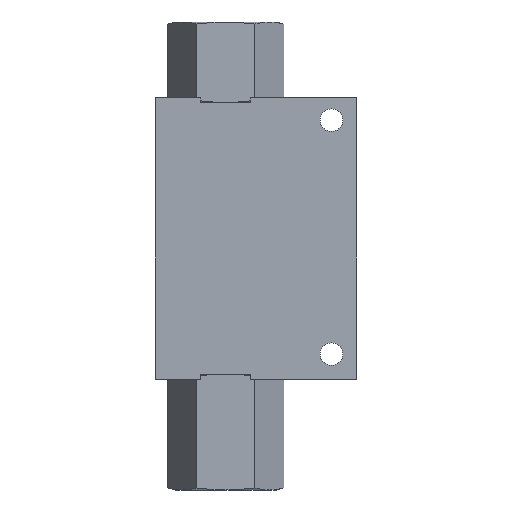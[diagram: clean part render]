
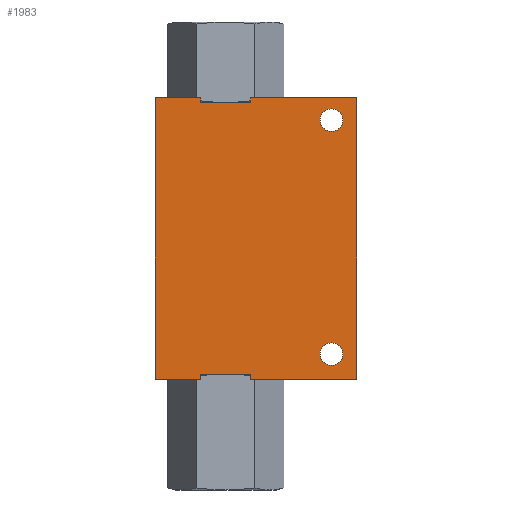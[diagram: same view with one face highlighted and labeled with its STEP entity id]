
A CAD part, left-side view. The second image highlights one B-rep face of the part: STEP entity #1983.
In plain terms, the highlighted planar face has unit normal (-1, 0, 0).
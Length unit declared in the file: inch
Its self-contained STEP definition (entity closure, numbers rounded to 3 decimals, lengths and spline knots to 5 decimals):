
#1584=CARTESIAN_POINT('',(-0.75,-0.3125,-3.435));
#1585=VERTEX_POINT('',#1584);
#1593=CARTESIAN_POINT('',(-0.75,0.3125,-3.435));
#1594=VERTEX_POINT('',#1593);
#1595=CARTESIAN_POINT('',(-0.75,0.3125,-3.435));
#1596=DIRECTION('',(0.0,-1.0,0.0));
#1597=VECTOR('',#1596,0.625);
#1598=LINE('',#1595,#1597);
#1599=EDGE_CURVE('',#1594,#1585,#1598,.T.);
#1626=CARTESIAN_POINT('',(-0.75,0.875,-3.5));
#1627=VERTEX_POINT('',#1626);
#1634=CARTESIAN_POINT('',(-0.75,0.875,0.0));
#1635=VERTEX_POINT('',#1634);
#1636=CARTESIAN_POINT('',(-0.75,0.875,0.0));
#1637=DIRECTION('',(0.0,0.0,-1.0));
#1638=VECTOR('',#1637,3.5);
#1639=LINE('',#1636,#1638);
#1640=EDGE_CURVE('',#1635,#1627,#1639,.T.);
#1664=CARTESIAN_POINT('',(-0.75,-1.625,-3.5));
#1665=VERTEX_POINT('',#1664);
#1682=CARTESIAN_POINT('',(-0.75,-1.625,0.0));
#1683=VERTEX_POINT('',#1682);
#1690=CARTESIAN_POINT('',(-0.75,-1.625,0.0));
#1691=DIRECTION('',(0.0,0.0,-1.0));
#1692=VECTOR('',#1691,3.5);
#1693=LINE('',#1690,#1692);
#1694=EDGE_CURVE('',#1683,#1665,#1693,.T.);
#1765=CARTESIAN_POINT('',(-0.75,0.3125,0.0));
#1766=VERTEX_POINT('',#1765);
#1783=CARTESIAN_POINT('',(-0.75,0.3125,0.0));
#1784=DIRECTION('',(0.0,1.0,0.0));
#1785=VECTOR('',#1784,0.5625);
#1786=LINE('',#1783,#1785);
#1787=EDGE_CURVE('',#1766,#1635,#1786,.T.);
#1799=CARTESIAN_POINT('',(-0.75,-0.3125,0.0));
#1800=VERTEX_POINT('',#1799);
#1808=CARTESIAN_POINT('',(-0.75,-1.625,0.0));
#1809=DIRECTION('',(0.0,1.0,0.0));
#1810=VECTOR('',#1809,1.3125);
#1811=LINE('',#1808,#1810);
#1812=EDGE_CURVE('',#1683,#1800,#1811,.T.);
#1829=CARTESIAN_POINT('',(-0.75,-0.3125,-0.06));
#1830=VERTEX_POINT('',#1829);
#1831=CARTESIAN_POINT('',(-0.75,0.3125,-0.06));
#1832=VERTEX_POINT('',#1831);
#1833=CARTESIAN_POINT('',(-0.75,-0.3125,-0.06));
#1834=DIRECTION('',(0.0,1.0,0.0));
#1835=VECTOR('',#1834,0.625);
#1836=LINE('',#1833,#1835);
#1837=EDGE_CURVE('',#1830,#1832,#1836,.T.);
#1879=CARTESIAN_POINT('',(-0.75,0.3125,-0.06));
#1880=DIRECTION('',(0.0,0.0,1.0));
#1881=VECTOR('',#1880,0.06);
#1882=LINE('',#1879,#1881);
#1883=EDGE_CURVE('',#1832,#1766,#1882,.T.);
#1901=CARTESIAN_POINT('',(-0.75,-0.3125,0.0));
#1902=DIRECTION('',(0.0,0.0,-1.0));
#1903=VECTOR('',#1902,0.06);
#1904=LINE('',#1901,#1903);
#1905=EDGE_CURVE('',#1800,#1830,#1904,.T.);
#1918=CARTESIAN_POINT('',(-0.75,0.875,0.0));
#1919=DIRECTION('',(-1.0,0.0,0.0));
#1920=DIRECTION('',(0.0,0.0,1.0));
#1921=AXIS2_PLACEMENT_3D('',#1918,#1919,#1920);
#1922=PLANE('',#1921);
#1923=CARTESIAN_POINT('',(-0.75,0.3125,-3.5));
#1924=VERTEX_POINT('',#1923);
#1925=CARTESIAN_POINT('',(-0.75,0.3125,-3.5));
#1926=DIRECTION('',(0.0,0.0,1.0));
#1927=VECTOR('',#1926,0.065);
#1928=LINE('',#1925,#1927);
#1929=EDGE_CURVE('',#1924,#1594,#1928,.T.);
#1930=ORIENTED_EDGE('',*,*,#1929,.T.);
#1931=ORIENTED_EDGE('',*,*,#1599,.T.);
#1932=CARTESIAN_POINT('',(-0.75,-0.3125,-3.5));
#1933=VERTEX_POINT('',#1932);
#1934=CARTESIAN_POINT('',(-0.75,-0.3125,-3.435));
#1935=DIRECTION('',(0.0,0.0,-1.0));
#1936=VECTOR('',#1935,0.065);
#1937=LINE('',#1934,#1936);
#1938=EDGE_CURVE('',#1585,#1933,#1937,.T.);
#1939=ORIENTED_EDGE('',*,*,#1938,.T.);
#1940=CARTESIAN_POINT('',(-0.75,-0.3125,-3.5));
#1941=DIRECTION('',(0.0,-1.0,0.0));
#1942=VECTOR('',#1941,1.3125);
#1943=LINE('',#1940,#1942);
#1944=EDGE_CURVE('',#1933,#1665,#1943,.T.);
#1945=ORIENTED_EDGE('',*,*,#1944,.T.);
#1946=ORIENTED_EDGE('',*,*,#1694,.F.);
#1947=ORIENTED_EDGE('',*,*,#1812,.T.);
#1948=ORIENTED_EDGE('',*,*,#1905,.T.);
#1949=ORIENTED_EDGE('',*,*,#1837,.T.);
#1950=ORIENTED_EDGE('',*,*,#1883,.T.);
#1951=ORIENTED_EDGE('',*,*,#1787,.T.);
#1952=ORIENTED_EDGE('',*,*,#1640,.T.);
#1953=CARTESIAN_POINT('',(-0.75,0.875,-3.5));
#1954=DIRECTION('',(0.0,-1.0,0.0));
#1955=VECTOR('',#1954,0.5625);
#1956=LINE('',#1953,#1955);
#1957=EDGE_CURVE('',#1627,#1924,#1956,.T.);
#1958=ORIENTED_EDGE('',*,*,#1957,.T.);
#1959=EDGE_LOOP('',(#1930,#1931,#1939,#1945,#1946,#1947,#1948,#1949,#1950,#1951,#1952,#1958));
#1960=FACE_OUTER_BOUND('',#1959,.T.);
#1961=CARTESIAN_POINT('',(-0.75,-1.1715,-3.188));
#1962=VERTEX_POINT('',#1961);
#1963=CARTESIAN_POINT('',(-0.75,-1.312,-3.188));
#1964=DIRECTION('',(1.0,0.0,0.0));
#1965=DIRECTION('',(0.0,-1.0,0.0));
#1966=AXIS2_PLACEMENT_3D('',#1963,#1964,#1965);
#1967=CIRCLE('',#1966,0.1405);
#1968=EDGE_CURVE('',#1962,#1962,#1967,.T.);
#1969=ORIENTED_EDGE('',*,*,#1968,.T.);
#1970=EDGE_LOOP('',(#1969));
#1971=FACE_BOUND('',#1970,.T.);
#1972=CARTESIAN_POINT('',(-0.75,-1.1715,-0.281));
#1973=VERTEX_POINT('',#1972);
#1974=CARTESIAN_POINT('',(-0.75,-1.312,-0.281));
#1975=DIRECTION('',(1.0,0.0,0.0));
#1976=DIRECTION('',(0.0,-1.0,0.0));
#1977=AXIS2_PLACEMENT_3D('',#1974,#1975,#1976);
#1978=CIRCLE('',#1977,0.1405);
#1979=EDGE_CURVE('',#1973,#1973,#1978,.T.);
#1980=ORIENTED_EDGE('',*,*,#1979,.T.);
#1981=EDGE_LOOP('',(#1980));
#1982=FACE_BOUND('',#1981,.T.);
#1983=ADVANCED_FACE('',(#1960,#1971,#1982),#1922,.T.);
